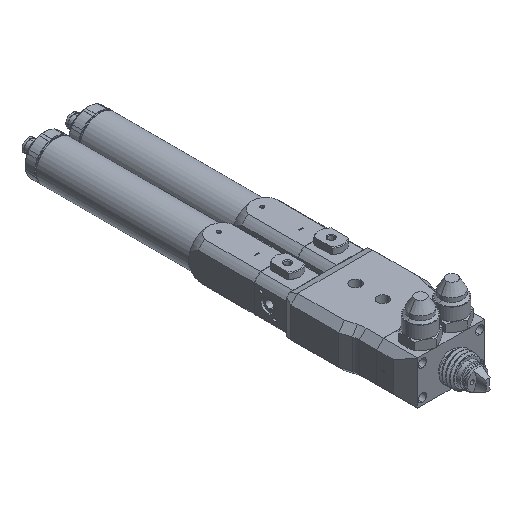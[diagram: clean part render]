
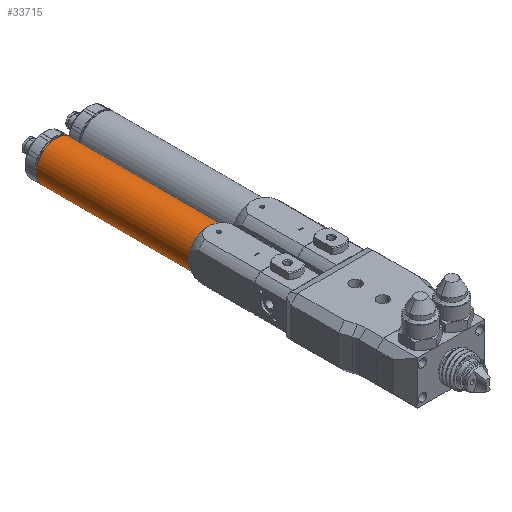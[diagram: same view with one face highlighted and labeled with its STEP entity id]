
A CAD part, isometric view. The second image highlights one B-rep face of the part: STEP entity #33715.
In plain terms, the highlighted cylindrical face has radius 14.5 mm (diameter 29 mm), a full revolution.
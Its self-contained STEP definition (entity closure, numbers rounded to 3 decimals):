
#530 = EDGE_LOOP ( 'NONE', ( #15704, #22393, #8157, #18307 ) ) ;
#1020 = ORIENTED_EDGE ( 'NONE', *, *, #28144, .T. ) ;
#1366 = CIRCLE ( 'NONE', #28216, 14.5 ) ;
#1844 = AXIS2_PLACEMENT_3D ( 'NONE', #16039, #16393, #28267 ) ;
#1974 = EDGE_CURVE ( 'NONE', #17376, #15810, #20166, .T. ) ;
#2337 = DIRECTION ( 'NONE',  ( 0., 0., -1. ) ) ;
#2750 = EDGE_LOOP ( 'NONE', ( #20184, #1020 ) ) ;
#4866 = DIRECTION ( 'NONE',  ( 0., -1., 0. ) ) ;
#5066 = CARTESIAN_POINT ( 'NONE',  ( -16.989, 139.049, 998.603 ) ) ;
#5574 = FACE_OUTER_BOUND ( 'NONE', #530, .T. ) ;
#6164 = AXIS2_PLACEMENT_3D ( 'NONE', #25675, #37323, #2337 ) ;
#8101 = EDGE_CURVE ( 'NONE', #15814, #23628, #10382, .T. ) ;
#8157 = ORIENTED_EDGE ( 'NONE', *, *, #32507, .T. ) ;
#10169 = CARTESIAN_POINT ( 'NONE',  ( -16.989, 27.249, 1013.103 ) ) ;
#10382 = CIRCLE ( 'NONE', #24458, 14.5 ) ;
#10622 = AXIS2_PLACEMENT_3D ( 'NONE', #13144, #31081, #25182 ) ;
#12519 = CARTESIAN_POINT ( 'NONE',  ( -16.989, 27.249, 984.103 ) ) ;
#12562 = CARTESIAN_POINT ( 'NONE',  ( -16.989, 139.049, 1013.103 ) ) ;
#13144 = CARTESIAN_POINT ( 'NONE',  ( -16.989, 27.249, 998.603 ) ) ;
#13808 = FACE_OUTER_BOUND ( 'NONE', #2750, .T. ) ;
#14646 = EDGE_CURVE ( 'NONE', #23628, #18784, #30712, .T. ) ;
#14754 = CARTESIAN_POINT ( 'NONE',  ( -16.989, 139.049, 984.103 ) ) ;
#15704 = ORIENTED_EDGE ( 'NONE', *, *, #14646, .T. ) ;
#15722 = CARTESIAN_POINT ( 'NONE',  ( -16.989, 27.249, 998.603 ) ) ;
#15810 = VERTEX_POINT ( 'NONE', #14754 ) ;
#15814 = VERTEX_POINT ( 'NONE', #10169 ) ;
#16039 = CARTESIAN_POINT ( 'NONE',  ( -16.989, 139.049, 998.603 ) ) ;
#16393 = DIRECTION ( 'NONE',  ( 0., -1., 0. ) ) ;
#17203 = DIRECTION ( 'NONE',  ( 0., 1., 0. ) ) ;
#17376 = VERTEX_POINT ( 'NONE', #12562 ) ;
#17750 = CARTESIAN_POINT ( 'NONE',  ( -16.989, 27.249, 998.603 ) ) ;
#18307 = ORIENTED_EDGE ( 'NONE', *, *, #8101, .T. ) ;
#18605 = DIRECTION ( 'NONE',  ( 0., 1., 0. ) ) ;
#18784 = VERTEX_POINT ( 'NONE', #12519 ) ;
#19107 = AXIS2_PLACEMENT_3D ( 'NONE', #21990, #31171, #25067 ) ;
#20166 = CIRCLE ( 'NONE', #1844, 14.5 ) ;
#20184 = ORIENTED_EDGE ( 'NONE', *, *, #1974, .T. ) ;
#21042 = VERTEX_POINT ( 'NONE', #23870 ) ;
#21990 = CARTESIAN_POINT ( 'NONE',  ( -16.989, 27.249, 998.603 ) ) ;
#22201 = AXIS2_PLACEMENT_3D ( 'NONE', #5066, #4866, #28974 ) ;
#22393 = ORIENTED_EDGE ( 'NONE', *, *, #36737, .T. ) ;
#23628 = VERTEX_POINT ( 'NONE', #30163 ) ;
#23870 = CARTESIAN_POINT ( 'NONE',  ( -31.489, 27.249, 998.603 ) ) ;
#24458 = AXIS2_PLACEMENT_3D ( 'NONE', #17750, #17203, #37834 ) ;
#24709 = CIRCLE ( 'NONE', #10622, 14.5 ) ;
#25067 = DIRECTION ( 'NONE',  ( 0., 0., -1. ) ) ;
#25182 = DIRECTION ( 'NONE',  ( 0., 0., -1. ) ) ;
#25675 = CARTESIAN_POINT ( 'NONE',  ( -16.989, 23.312, 998.603 ) ) ;
#27793 = DIRECTION ( 'NONE',  ( 0., 0., -1. ) ) ;
#28144 = EDGE_CURVE ( 'NONE', #15810, #17376, #31354, .T. ) ;
#28216 = AXIS2_PLACEMENT_3D ( 'NONE', #15722, #18605, #27793 ) ;
#28267 = DIRECTION ( 'NONE',  ( 0., 0., -1. ) ) ;
#28974 = DIRECTION ( 'NONE',  ( 0., 0., -1. ) ) ;
#30163 = CARTESIAN_POINT ( 'NONE',  ( -2.489, 27.249, 998.603 ) ) ;
#30712 = CIRCLE ( 'NONE', #19107, 14.5 ) ;
#31081 = DIRECTION ( 'NONE',  ( 0., 1., 0. ) ) ;
#31171 = DIRECTION ( 'NONE',  ( 0., 1., 0. ) ) ;
#31354 = CIRCLE ( 'NONE', #22201, 14.5 ) ;
#32507 = EDGE_CURVE ( 'NONE', #21042, #15814, #1366, .T. ) ;
#33715 = ADVANCED_FACE ( 'NONE', ( #5574, #13808 ), #36957, .T. ) ;
#36737 = EDGE_CURVE ( 'NONE', #18784, #21042, #24709, .T. ) ;
#36957 = CYLINDRICAL_SURFACE ( 'NONE', #6164, 14.5 ) ;
#37323 = DIRECTION ( 'NONE',  ( 0., -1., 0. ) ) ;
#37834 = DIRECTION ( 'NONE',  ( 0., 0., -1. ) ) ;
